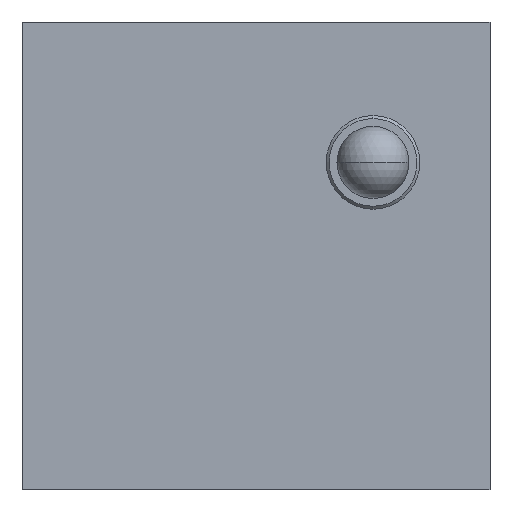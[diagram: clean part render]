
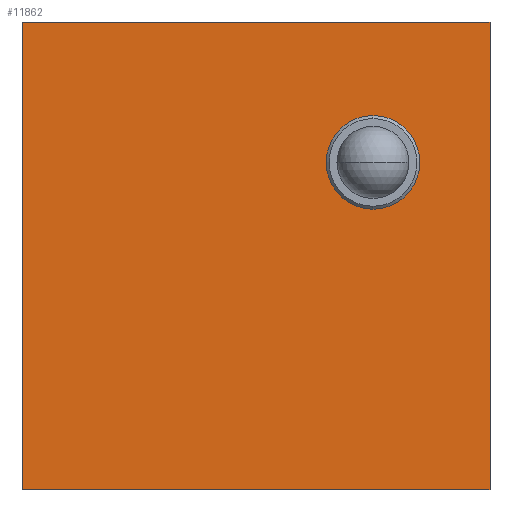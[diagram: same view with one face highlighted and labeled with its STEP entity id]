
A CAD part, left-side view. The second image highlights one B-rep face of the part: STEP entity #11862.
In plain terms, the highlighted planar face has unit normal (-1, 0, 0).
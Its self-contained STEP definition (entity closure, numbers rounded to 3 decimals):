
#54 = CARTESIAN_POINT ( 'NONE',  ( 0., 30., -30. ) ) ;
#66 = CARTESIAN_POINT ( 'NONE',  ( 0., -15., 12. ) ) ;
#357 = CARTESIAN_POINT ( 'NONE',  ( 0., -15., 6. ) ) ;
#877 = VERTEX_POINT ( 'NONE', #3080 ) ;
#1541 = CARTESIAN_POINT ( 'NONE',  ( 0., -30., 30. ) ) ;
#1820 = PLANE ( 'NONE',  #13120 ) ;
#1905 = DIRECTION ( 'NONE',  ( 0., 0., 1. ) ) ;
#1917 = DIRECTION ( 'NONE',  ( 0., 0., 1. ) ) ;
#2326 = CARTESIAN_POINT ( 'NONE',  ( 0., -30., 30. ) ) ;
#2799 = VECTOR ( 'NONE', #3156, 1000. ) ;
#3080 = CARTESIAN_POINT ( 'NONE',  ( 0., 30., 30. ) ) ;
#3132 = VERTEX_POINT ( 'NONE', #21403 ) ;
#3156 = DIRECTION ( 'NONE',  ( 0., 0., -1. ) ) ;
#4274 = VERTEX_POINT ( 'NONE', #1541 ) ;
#5084 = ORIENTED_EDGE ( 'NONE', *, *, #14624, .F. ) ;
#6101 = AXIS2_PLACEMENT_3D ( 'NONE', #8479, #21181, #10330 ) ;
#6887 = ORIENTED_EDGE ( 'NONE', *, *, #20042, .F. ) ;
#7392 = CIRCLE ( 'NONE', #19440, 6. ) ;
#7715 = FACE_BOUND ( 'NONE', #11003, .T. ) ;
#8146 = VECTOR ( 'NONE', #23463, 1000. ) ;
#8199 = DIRECTION ( 'NONE',  ( 0., -1., 0. ) ) ;
#8479 = CARTESIAN_POINT ( 'NONE',  ( 0., -15., 12. ) ) ;
#8634 = CARTESIAN_POINT ( 'NONE',  ( 0., -30., 30. ) ) ;
#8668 = CARTESIAN_POINT ( 'NONE',  ( 0., -30., -30. ) ) ;
#9045 = EDGE_CURVE ( 'NONE', #19873, #3132, #13809, .T. ) ;
#10330 = DIRECTION ( 'NONE',  ( 0., 0., 1. ) ) ;
#10939 = CIRCLE ( 'NONE', #6101, 6. ) ;
#11003 = EDGE_LOOP ( 'NONE', ( #11220, #12674 ) ) ;
#11220 = ORIENTED_EDGE ( 'NONE', *, *, #20489, .F. ) ;
#11507 = VECTOR ( 'NONE', #8199, 1000. ) ;
#11862 = ADVANCED_FACE ( 'NONE', ( #7715, #17362 ), #1820, .T. ) ;
#11973 = LINE ( 'NONE', #8634, #2799 ) ;
#12565 = ORIENTED_EDGE ( 'NONE', *, *, #9045, .F. ) ;
#12674 = ORIENTED_EDGE ( 'NONE', *, *, #14855, .F. ) ;
#12854 = DIRECTION ( 'NONE',  ( -1., 0., 0. ) ) ;
#12863 = DIRECTION ( 'NONE',  ( -1., 0., 0. ) ) ;
#12947 = CARTESIAN_POINT ( 'NONE',  ( 0., -15., 18. ) ) ;
#13120 = AXIS2_PLACEMENT_3D ( 'NONE', #54, #12854, #1905 ) ;
#13535 = LINE ( 'NONE', #21606, #8146 ) ;
#13809 = LINE ( 'NONE', #8668, #22954 ) ;
#14624 = EDGE_CURVE ( 'NONE', #4274, #19873, #11973, .T. ) ;
#14855 = EDGE_CURVE ( 'NONE', #15537, #14915, #7392, .T. ) ;
#14915 = VERTEX_POINT ( 'NONE', #12947 ) ;
#15537 = VERTEX_POINT ( 'NONE', #357 ) ;
#16293 = LINE ( 'NONE', #2326, #11507 ) ;
#17362 = FACE_OUTER_BOUND ( 'NONE', #21817, .T. ) ;
#18176 = EDGE_CURVE ( 'NONE', #877, #4274, #16293, .T. ) ;
#18282 = ORIENTED_EDGE ( 'NONE', *, *, #18176, .F. ) ;
#19440 = AXIS2_PLACEMENT_3D ( 'NONE', #66, #12863, #1917 ) ;
#19873 = VERTEX_POINT ( 'NONE', #21047 ) ;
#20042 = EDGE_CURVE ( 'NONE', #3132, #877, #13535, .T. ) ;
#20489 = EDGE_CURVE ( 'NONE', #14915, #15537, #10939, .T. ) ;
#21047 = CARTESIAN_POINT ( 'NONE',  ( 0., -30., -30. ) ) ;
#21181 = DIRECTION ( 'NONE',  ( -1., 0., 0. ) ) ;
#21403 = CARTESIAN_POINT ( 'NONE',  ( 0., 30., -30. ) ) ;
#21606 = CARTESIAN_POINT ( 'NONE',  ( 0., 30., 30. ) ) ;
#21817 = EDGE_LOOP ( 'NONE', ( #12565, #5084, #18282, #6887 ) ) ;
#22954 = VECTOR ( 'NONE', #23240, 1000. ) ;
#23240 = DIRECTION ( 'NONE',  ( 0., 1., 0. ) ) ;
#23463 = DIRECTION ( 'NONE',  ( 0., 0., 1. ) ) ;
